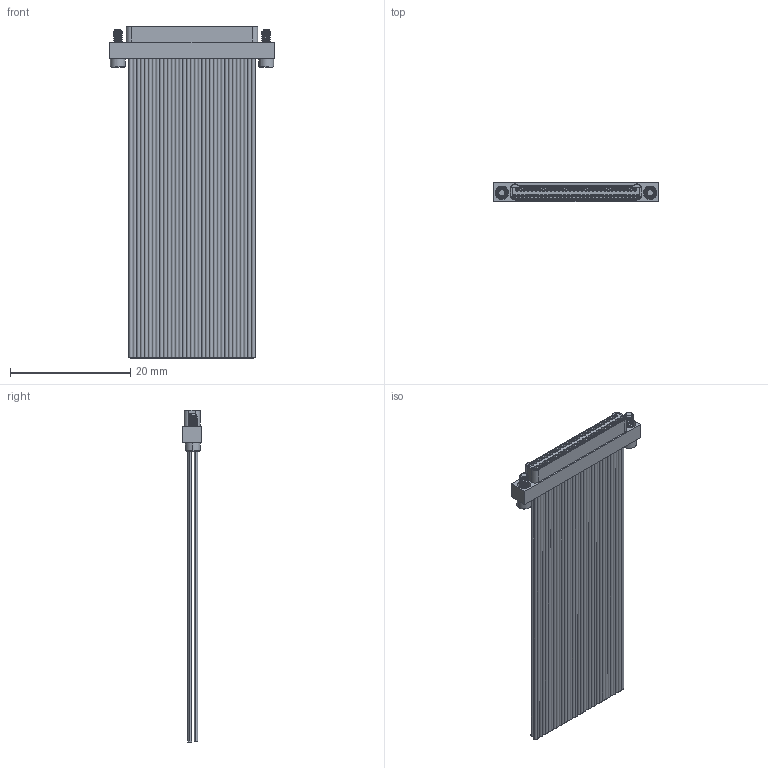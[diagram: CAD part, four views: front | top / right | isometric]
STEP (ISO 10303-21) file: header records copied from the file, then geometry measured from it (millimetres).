
FILE_DESCRIPTION (( 'STEP AP214' ), '1' );
FILE_NAME ('A28000-065 REV G.STEP', '2015-11-04T15:37:19', ( '' ), ( '' ), 'SwSTEP 2.0', 'SolidWorks 2015', '' );
FILE_SCHEMA (( 'AUTOMOTIVE_DESIGN' ));
Length unit declared in the file: inch
Products named in the file (1): A28000-065
Bounding box: 27.3 x 3.19 x 55.12 mm (x, y, z)
Volume: 1271 mm3; surface area: 7617.3 mm2
Topology: 1 solids, 1 shells, 1130 faces, 2459 edges, 1624 vertices
Faces by surface type: cylinder 592, plane 430, bspline 54, cone 38, torus 16
Entity records: 36667 total; most frequent: CARTESIAN_POINT 11148, DIRECTION 5631, ORIENTED_EDGE 4918, EDGE_CURVE 2459, AXIS2_PLACEMENT_3D 2285, VERTEX_POINT 1624, EDGE_LOOP 1423, CIRCLE 1208
